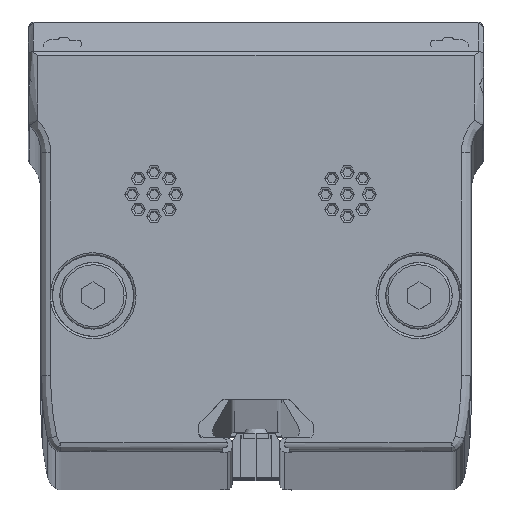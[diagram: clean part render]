
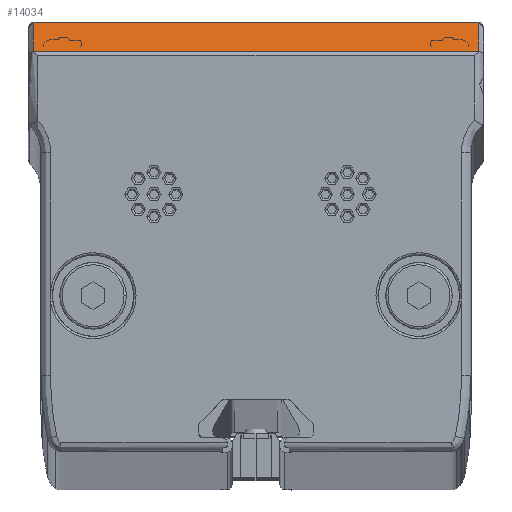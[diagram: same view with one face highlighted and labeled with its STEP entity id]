
A CAD part, top view. The second image highlights one B-rep face of the part: STEP entity #14034.
In plain terms, the highlighted planar face has unit normal (0, 0.858, 0.514).
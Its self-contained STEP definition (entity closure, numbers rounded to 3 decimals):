
#440 = CARTESIAN_POINT ( 'NONE',  ( 23.274, 22.429, 2254.914 ) ) ;
#1750 = PLANE ( 'NONE',  #28501 ) ;
#1893 = CARTESIAN_POINT ( 'NONE',  ( 23.82, 19.287, 2260.15 ) ) ;
#2704 = CARTESIAN_POINT ( 'NONE',  ( 23.315, 22.387, 2254.983 ) ) ;
#3882 = CARTESIAN_POINT ( 'NONE',  ( -23.315, 19.287, 2260.15 ) ) ;
#4690 = VERTEX_POINT ( 'NONE', #8989 ) ;
#4825 = VERTEX_POINT ( 'NONE', #19072 ) ;
#4970 = CARTESIAN_POINT ( 'NONE',  ( 23.315, 19.433, 2259.907 ) ) ;
#5429 = CARTESIAN_POINT ( 'NONE',  ( 23.315, 22.329, 2255.08 ) ) ;
#5725 = ORIENTED_EDGE ( 'NONE', *, *, #10892, .T. ) ;
#5730 = EDGE_CURVE ( 'NONE', #4825, #4690, #21322, .T. ) ;
#6130 = DIRECTION ( 'NONE',  ( 0., -0.857, -0.514 ) ) ;
#7193 = CARTESIAN_POINT ( 'NONE',  ( -23.274, 22.429, 2254.914 ) ) ;
#7229 = EDGE_CURVE ( 'NONE', #20887, #26022, #19404, .T. ) ;
#7532 = VECTOR ( 'NONE', #26932, 1000. ) ;
#8103 = DIRECTION ( 'NONE',  ( 0., 0.514, -0.857 ) ) ;
#8567 = CARTESIAN_POINT ( 'NONE',  ( -23.215, 22.429, 2254.914 ) ) ;
#8875 = VERTEX_POINT ( 'NONE', #13726 ) ;
#8989 = CARTESIAN_POINT ( 'NONE',  ( 23.215, 22.429, 2254.914 ) ) ;
#9594 = CARTESIAN_POINT ( 'NONE',  ( -23.315, 22.387, 2254.983 ) ) ;
#10867 = EDGE_CURVE ( 'NONE', #15739, #8875, #15768, .T. ) ;
#10892 = EDGE_CURVE ( 'NONE', #18291, #15739, #13044, .T. ) ;
#11251 = CARTESIAN_POINT ( 'NONE',  ( 23.215, 22.429, 2254.914 ) ) ;
#11558 = CARTESIAN_POINT ( 'NONE',  ( -23.215, 22.429, 2254.914 ) ) ;
#11815 = EDGE_CURVE ( 'NONE', #26022, #4825, #16126, .T. ) ;
#11814 = EDGE_CURVE ( 'NONE', #8875, #20887, #16851, .T. ) ;
#11898 = DIRECTION ( 'NONE',  ( 1., 0., 0. ) ) ;
#12756 = FACE_OUTER_BOUND ( 'NONE', #20022, .T. ) ;
#13044 =( BOUNDED_CURVE ( )  B_SPLINE_CURVE ( 3, ( #11558, #7193, #9594, #20739 ),
 .UNSPECIFIED., .F., .T. ) 
 B_SPLINE_CURVE_WITH_KNOTS ( ( 4, 4 ),
 ( 0., 1.571 ),
 .UNSPECIFIED. ) 
 CURVE ( )  GEOMETRIC_REPRESENTATION_ITEM ( )  RATIONAL_B_SPLINE_CURVE ( ( 1., 0.805, 0.805, 1. ) ) 
 REPRESENTATION_ITEM ( '' )  );
#13726 = CARTESIAN_POINT ( 'NONE',  ( -23.315, 19.433, 2259.907 ) ) ;
#14034 = ADVANCED_FACE ( 'NONE', ( #12756 ), #1750, .F. ) ;
#14448 = ORIENTED_EDGE ( 'NONE', *, *, #28955, .T. ) ;
#15196 = DIRECTION ( 'NONE',  ( -1., 0., 0. ) ) ;
#15739 = VERTEX_POINT ( 'NONE', #20957 ) ;
#15768 = LINE ( 'NONE', #3882, #7532 ) ;
#16047 = VECTOR ( 'NONE', #15196, 1000. ) ;
#16067 = CARTESIAN_POINT ( 'NONE',  ( 23.215, 22.429, 2254.914 ) ) ;
#16126 =( BOUNDED_CURVE ( )  B_SPLINE_CURVE ( 3, ( #5429, #2704, #440, #16701 ),
 .UNSPECIFIED., .F., .F. ) 
 B_SPLINE_CURVE_WITH_KNOTS ( ( 4, 4 ),
 ( 4.712, 6.283 ),
 .UNSPECIFIED. ) 
 CURVE ( )  GEOMETRIC_REPRESENTATION_ITEM ( )  RATIONAL_B_SPLINE_CURVE ( ( 1., 0.805, 0.805, 1. ) ) 
 REPRESENTATION_ITEM ( '' )  );
#16701 = CARTESIAN_POINT ( 'NONE',  ( 23.215, 22.429, 2254.914 ) ) ;
#16851 = LINE ( 'NONE', #25895, #27156 ) ;
#17447 = LINE ( 'NONE', #8567, #16047 ) ;
#18013 = CARTESIAN_POINT ( 'NONE',  ( -23.215, 22.429, 2254.914 ) ) ;
#18291 = VERTEX_POINT ( 'NONE', #18013 ) ;
#19072 = CARTESIAN_POINT ( 'NONE',  ( 23.215, 22.429, 2254.914 ) ) ;
#19404 = LINE ( 'NONE', #28602, #26004 ) ;
#20022 = EDGE_LOOP ( 'NONE', ( #25160, #26556, #28458, #28122, #14448, #5725, #29398 ) ) ;
#20739 = CARTESIAN_POINT ( 'NONE',  ( -23.315, 22.329, 2255.08 ) ) ;
#20887 = VERTEX_POINT ( 'NONE', #4970 ) ;
#20957 = CARTESIAN_POINT ( 'NONE',  ( -23.315, 22.329, 2255.08 ) ) ;
#21322 =( BOUNDED_CURVE ( )  B_SPLINE_CURVE ( 3, ( #11251, #27670, #16067, #22990 ),
 .UNSPECIFIED., .F., .F. ) 
 B_SPLINE_CURVE_WITH_KNOTS ( ( 4, 4 ),
 ( 6.283, 6.283 ),
 .UNSPECIFIED. ) 
 CURVE ( )  GEOMETRIC_REPRESENTATION_ITEM ( )  RATIONAL_B_SPLINE_CURVE ( ( 1., 1., 1., 1. ) ) 
 REPRESENTATION_ITEM ( '' )  );
#22382 = DIRECTION ( 'NONE',  ( 0., 0.514, -0.857 ) ) ;
#22990 = CARTESIAN_POINT ( 'NONE',  ( 23.215, 22.429, 2254.914 ) ) ;
#25160 = ORIENTED_EDGE ( 'NONE', *, *, #11814, .T. ) ;
#25895 = CARTESIAN_POINT ( 'NONE',  ( 23.82, 19.433, 2259.907 ) ) ;
#26004 = VECTOR ( 'NONE', #8103, 1000. ) ;
#26022 = VERTEX_POINT ( 'NONE', #26409 ) ;
#26409 = CARTESIAN_POINT ( 'NONE',  ( 23.315, 22.329, 2255.08 ) ) ;
#26556 = ORIENTED_EDGE ( 'NONE', *, *, #7229, .T. ) ;
#26932 = DIRECTION ( 'NONE',  ( 0., -0.514, 0.857 ) ) ;
#27156 = VECTOR ( 'NONE', #11898, 1000. ) ;
#27670 = CARTESIAN_POINT ( 'NONE',  ( 23.215, 22.429, 2254.914 ) ) ;
#28122 = ORIENTED_EDGE ( 'NONE', *, *, #5730, .T. ) ;
#28458 = ORIENTED_EDGE ( 'NONE', *, *, #11815, .T. ) ;
#28501 = AXIS2_PLACEMENT_3D ( 'NONE', #1893, #6130, #22382 ) ;
#28602 = CARTESIAN_POINT ( 'NONE',  ( 23.315, 19.287, 2260.15 ) ) ;
#28955 = EDGE_CURVE ( 'NONE', #4690, #18291, #17447, .T. ) ;
#29398 = ORIENTED_EDGE ( 'NONE', *, *, #10867, .T. ) ;
